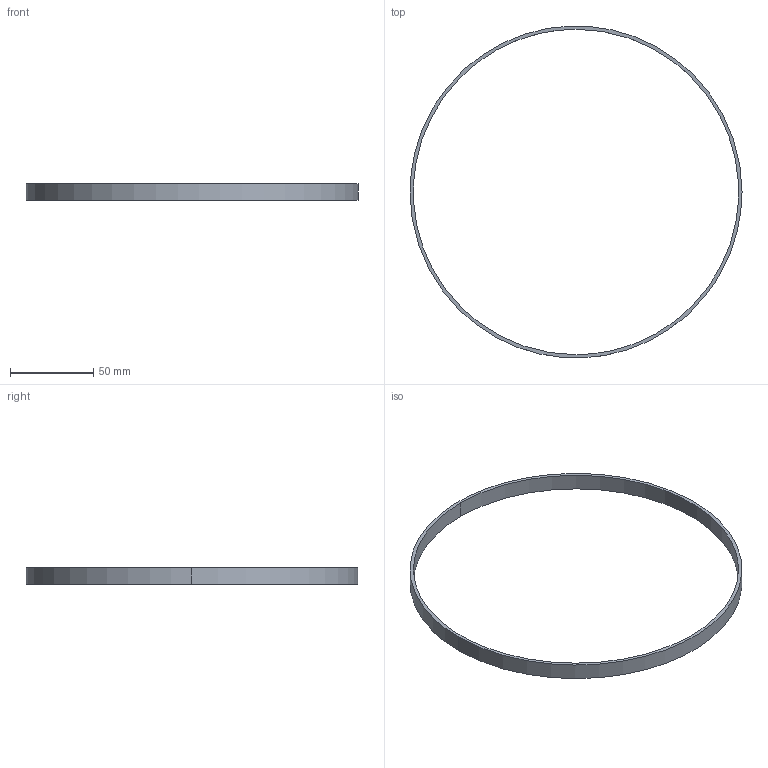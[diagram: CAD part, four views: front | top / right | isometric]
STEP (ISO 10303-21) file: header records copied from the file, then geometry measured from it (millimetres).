
FILE_DESCRIPTION(/* description */ (''),/* implementation_level */ '2;1');
FILE_NAME(/* name */ 'TEST1B~1',/* time_stamp */ '2019-11-27T20:11:28-07:00',/* author */ (''),/* organization */ (''),/* preprocessor_version */ 'ST-DEVELOPER v15',/* originating_system */ '',/* authorisation */ '');
FILE_SCHEMA (('AUTOMOTIVE_DESIGN'));
Length unit declared in the file: millimetre
Products named in the file (1): Document
Bounding box: 200 x 199.83 x 10 mm (x, y, z)
Volume: 12155.2 mm3; surface area: 14759.6 mm2
Topology: 1 solids, 1 shells, 6 faces, 12 edges, 8 vertices
Faces by surface type: bspline 4, plane 2
Entity records: 206 total; most frequent: CARTESIAN_POINT 100, ORIENTED_EDGE 24, EDGE_CURVE 12, EDGE_LOOP 8, VERTEX_POINT 8, ADVANCED_FACE 6, FACE_OUTER_BOUND 6, DIRECTION 6
